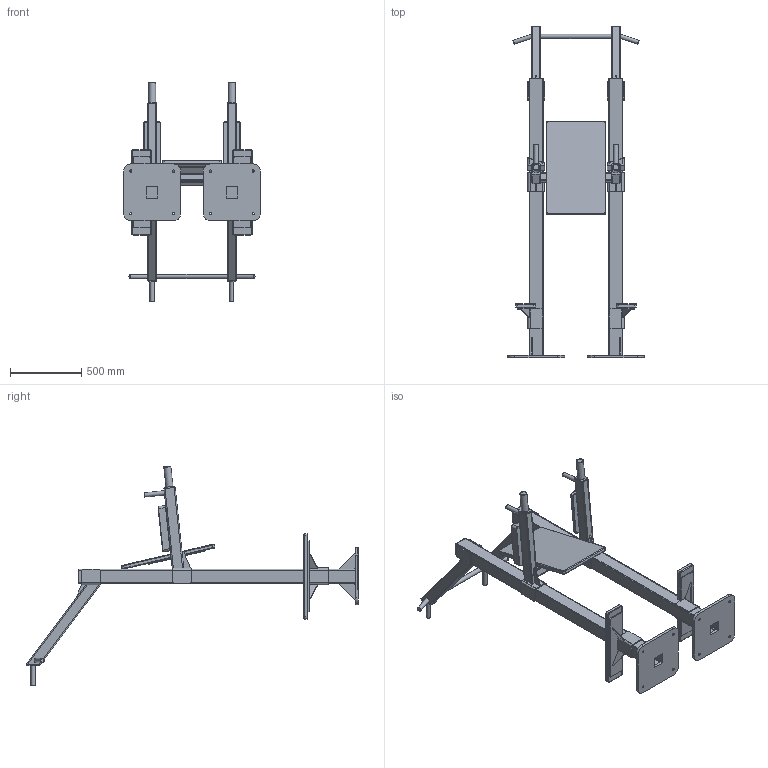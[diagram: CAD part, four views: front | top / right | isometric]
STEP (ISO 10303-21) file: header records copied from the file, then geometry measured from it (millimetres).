
FILE_DESCRIPTION(/* description */ (''),/* implementation_level */ '2;1');
FILE_NAME(/* name */ 'OG95_3D_Low.step',/* time_stamp */ '2025-11-11T16:09:30+02:00',/* author */ (''),/* organization */ (''),/* preprocessor_version */ 'ST-DEVELOPER v20.1',/* originating_system */ 'Autodesk Translation Framework v14.21.0.0',/* authorisation */ '');
FILE_SCHEMA (('AUTOMOTIVE_DESIGN { 1 0 10303 214 3 1 1 }'));
Length unit declared in the file: millimetre
Products named in the file (1): OG95_3D:Low
Bounding box: 960 x 2331.55 x 1541.33 mm (x, y, z)
Volume: 33914947.5 mm3; surface area: 7839823.2 mm2
Topology: 52 solids, 52 shells, 683 faces, 1607 edges, 1028 vertices
Faces by surface type: plane 342, cylinder 275, torus 40, cone 10, bspline 8, sphere 8
Full cylindrical faces by diameter (mm): 6.5 x4, 8.5 x2, 16 x8, 30 x7, 31 x4, 40 x2, 47 x2, 50 x2
Entity records: 20169 total; most frequent: CARTESIAN_POINT 3619, DIRECTION 3567, ORIENTED_EDGE 3214, EDGE_CURVE 1607, AXIS2_PLACEMENT_3D 1284, VERTEX_POINT 1028, LINE 999, VECTOR 999
